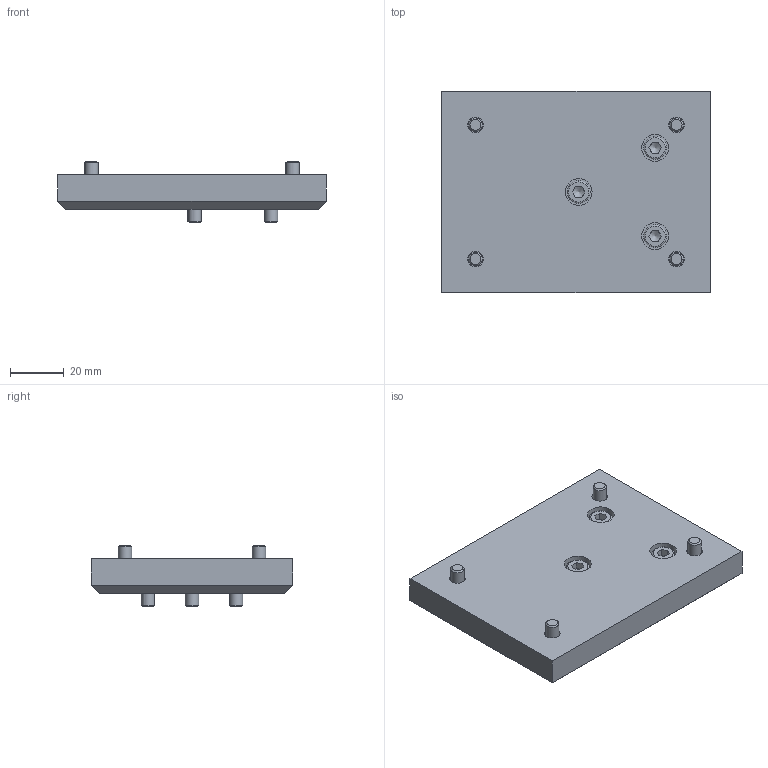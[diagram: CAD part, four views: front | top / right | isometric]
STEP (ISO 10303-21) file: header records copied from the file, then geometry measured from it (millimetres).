
FILE_DESCRIPTION(/* description */ ('Plaque pour colonne 331'),/* implementation_level */ '2;1');
FILE_NAME(/* name */ 'S:\Bureau-Technique\Dispositif\MA 155-062-21.stp',/* time_stamp */ '2019-02-28T10:21:11+01:00',/* author */ ('ms'),/* organization */ ('Marcel Aubert'),/* preprocessor_version */ 'ST-DEVELOPER v17.2',/* originating_system */ 'Autodesk Inventor 2019',/* authorisation */ '');
FILE_SCHEMA (('CONFIG_CONTROL_DESIGN'));
Length unit declared in the file: millimetre
Products named in the file (3): MA 155-062-21; PLQ-089-30; ISO 4762 - M5 x 12
Assembly tree (8 placements, depth 2):
  MA 155-062-21
    PLQ-089-30
    ISO 4762 - M5 x 12  x7
Bounding box: 100 x 75 x 23 mm (x, y, z)
Volume: 94688 mm3; surface area: 24000.4 mm2
Topology: 8 solids, 8 shells, 136 faces, 363 edges, 257 vertices
Faces by surface type: plane 80, cylinder 28, torus 14, cone 14
Full cylindrical faces by diameter (mm): 5 x7, 5.8 x7, 8.5 x7, 10 x7
Entity records: 1618 total; most frequent: DIRECTION 282, CARTESIAN_POINT 270, ORIENTED_EDGE 232, EDGE_CURVE 116, AXIS2_PLACEMENT_3D 116, VERTEX_POINT 83, EDGE_LOOP 69, CIRCLE 59
